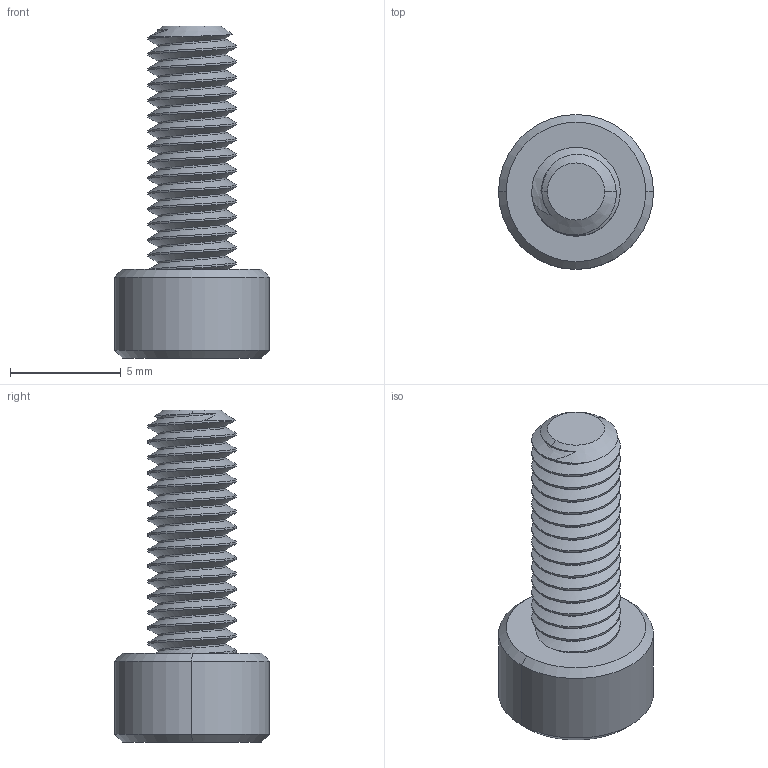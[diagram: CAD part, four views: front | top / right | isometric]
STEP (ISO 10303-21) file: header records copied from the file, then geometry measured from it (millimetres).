
FILE_DESCRIPTION (( 'STEP AP203' ), '1' );
FILE_NAME ('2800-0004-0011.STEP', '2018-07-24T18:33:22', ( '' ), ( '' ), 'SwSTEP 2.0', 'SolidWorks 2016', '' );
FILE_SCHEMA (( 'CONFIG_CONTROL_DESIGN' ));
Length unit declared in the file: millimetre
Products named in the file (1): 2800-0004-0011
Bounding box: 7 x 7 x 15 mm (x, y, z)
Volume: 242.2 mm3; surface area: 387 mm2
Topology: 1 solids, 1 shells, 90 faces, 241 edges, 155 vertices
Faces by surface type: cylinder 65, cone 13, plane 10, bspline 2
Entity records: 4399 total; most frequent: CARTESIAN_POINT 2465, ORIENTED_EDGE 482, DIRECTION 304, EDGE_CURVE 241, VERTEX_POINT 155, AXIS2_PLACEMENT_3D 111, EDGE_LOOP 92, ADVANCED_FACE 90
